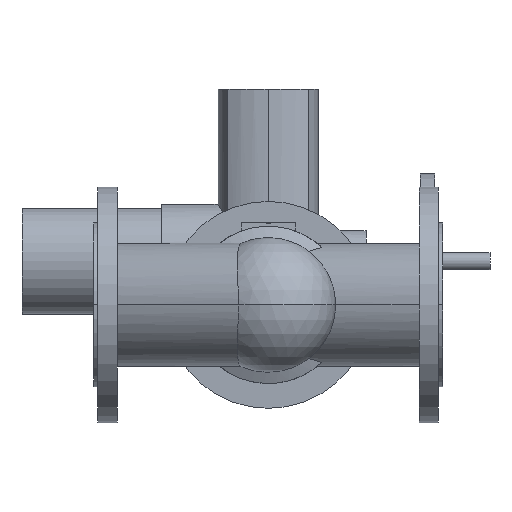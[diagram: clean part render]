
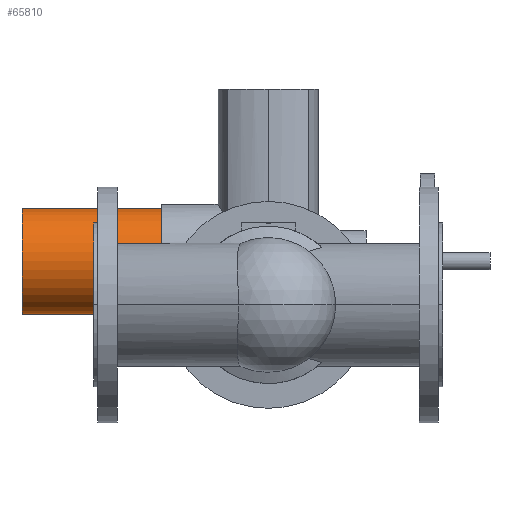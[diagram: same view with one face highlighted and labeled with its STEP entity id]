
A CAD part, front view. The second image highlights one B-rep face of the part: STEP entity #65810.
In plain terms, the highlighted cylindrical face has radius 60.5 mm (diameter 121 mm), a partial arc.
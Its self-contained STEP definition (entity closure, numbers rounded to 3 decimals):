
#65400=CARTESIAN_POINT('',(-2.,520.,50.));
#65410=DIRECTION('',(1.,0.,0.));
#65420=DIRECTION('',(0.,0.,-1.));
#65430=AXIS2_PLACEMENT_3D('',#65400,#65410,#65420);
#65440=CYLINDRICAL_SURFACE('',#65430,60.5);
#65450=CARTESIAN_POINT('',(-2.,520.,-10.5));
#65460=DIRECTION('',(1.,0.,0.));
#65470=VECTOR('',#65460,1.);
#65480=LINE('',#65450,#65470);
#65490=CARTESIAN_POINT('',(-82.,520.,-10.5));
#65500=VERTEX_POINT('',#65490);
#65510=CARTESIAN_POINT('',(78.,520.,-10.5));
#65520=VERTEX_POINT('',#65510);
#65530=EDGE_CURVE('',#65500,#65520,#65480,.T.);
#65540=ORIENTED_EDGE('',*,*,#65530,.T.);
#65550=CARTESIAN_POINT('',(-82.,520.,50.));
#65560=DIRECTION('',(-1.,0.,0.));
#65570=DIRECTION('',(0.,0.,-1.));
#65580=AXIS2_PLACEMENT_3D('',#65550,#65560,#65570);
#65590=CIRCLE('',#65580,60.5);
#65600=CARTESIAN_POINT('',(-82.,520.,110.5));
#65610=VERTEX_POINT('',#65600);
#65620=EDGE_CURVE('',#65500,#65610,#65590,.T.);
#65630=ORIENTED_EDGE('',*,*,#65620,.F.);
#65640=CARTESIAN_POINT('',(-2.,520.,110.5));
#65650=DIRECTION('',(1.,0.,0.));
#65660=VECTOR('',#65650,1.);
#65670=LINE('',#65640,#65660);
#65680=CARTESIAN_POINT('',(78.,520.,110.5));
#65690=VERTEX_POINT('',#65680);
#65700=EDGE_CURVE('',#65610,#65690,#65670,.T.);
#65710=ORIENTED_EDGE('',*,*,#65700,.F.);
#65720=CARTESIAN_POINT('',(78.,520.,50.));
#65730=DIRECTION('',(-1.,0.,0.));
#65740=DIRECTION('',(0.,0.,-1.));
#65750=AXIS2_PLACEMENT_3D('',#65720,#65730,#65740);
#65760=CIRCLE('',#65750,60.5);
#65770=EDGE_CURVE('',#65520,#65690,#65760,.T.);
#65780=ORIENTED_EDGE('',*,*,#65770,.T.);
#65790=EDGE_LOOP('',(#65780,#65710,#65630,#65540));
#65800=FACE_OUTER_BOUND('',#65790,.T.);
#65810=ADVANCED_FACE('',(#65800),#65440,.T.);
